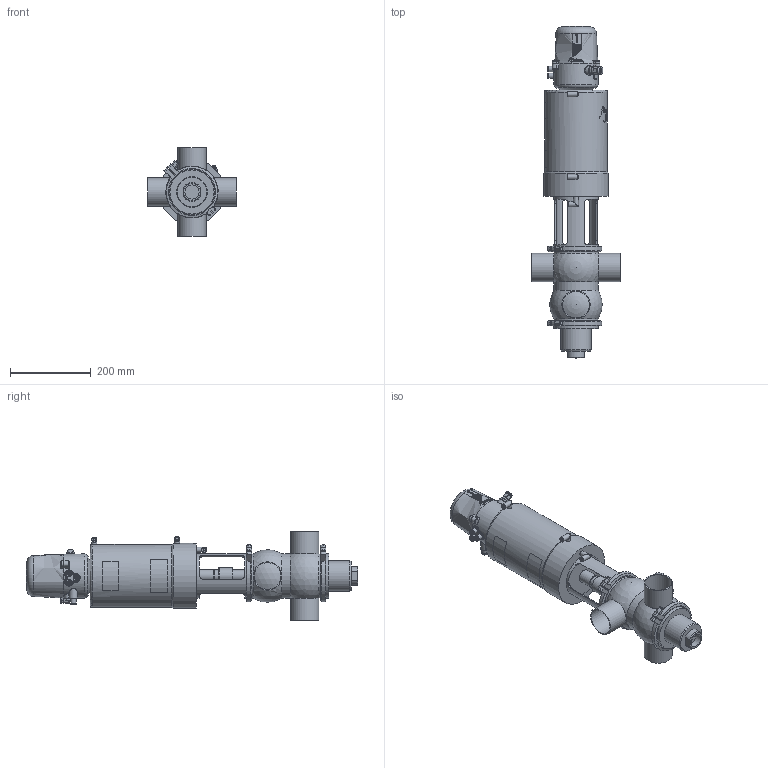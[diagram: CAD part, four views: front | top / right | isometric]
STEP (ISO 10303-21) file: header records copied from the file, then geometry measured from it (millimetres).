
FILE_DESCRIPTION (( 'STEP AP214' ), '1' );
FILE_NAME ('INNOVA P CB-90 W DIN 065 & C-TOP S_10.250.16.0015.STEP', '2024-08-09T11:38:13', ( '' ), ( '' ), 'SwSTEP 2.0', 'SolidWorks 2023', '' );
FILE_SCHEMA (( 'AUTOMOTIVE_DESIGN' ));
Length unit declared in the file: millimetre
Products named in the file (7): 10.240.15.0001_DN 065; 10.250.15.0001_DIN 065; 10.251.15.0007_DIN 065; 10.250.15.0003_DN 065; INNOVA P CB-90 W DIN 065 & C-TOP S_10.250.16.0015; 10.250.15.0002_Type P T2; 10.426.15.0001_C-TOP S - 3 EV
Assembly tree (7 placements, depth 2):
  INNOVA P CB-90 W DIN 065 & C-TOP S_10.250.16.0015
    10.250.15.0001_DIN 065
    10.250.15.0002_Type P T2
    10.426.15.0001_C-TOP S - 3 EV
    10.251.15.0007_DIN 065
    10.240.15.0001_DN 065  x2
    10.250.15.0003_DN 065
Bounding box: 220 x 822 x 220 mm (x, y, z)
Volume: 9509187.5 mm3; surface area: 620217.6 mm2
Topology: 7 solids, 7 shells, 1214 faces, 2911 edges, 1937 vertices
Faces by surface type: plane 418, cylinder 387, cone 204, bspline 162, torus 33, sphere 10
Full cylindrical faces by diameter (mm): 0.371 x17, 0.512 x16, 0.658 x16, 0.795 x16, 0.94 x15, 1.098 x15, 1.241 x13, 1.382 x13, 1.523 x11, 1.669 x10, 2.201 x1, 4.2 x2, 5 x1, 5.5 x2, 6 x4, 6.15 x3, 8 x5, 10 x1, 10.5 x3, 11 x4, 12.5 x9, 13 x6, 13.5 x2, 17 x3, 20 x2, 22 x2, 30.5 x2, 32 x1, 35 x1, 41 x1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
Entity records: 60313 total; most frequent: CARTESIAN_POINT 28688, ORIENTED_EDGE 4620, DIRECTION 3793, EDGE_CURVE 2310, VERTEX_POINT 1652, EDGE_LOOP 1648, AXIS2_PLACEMENT_3D 1566, FACE_OUTER_BOUND 1387
